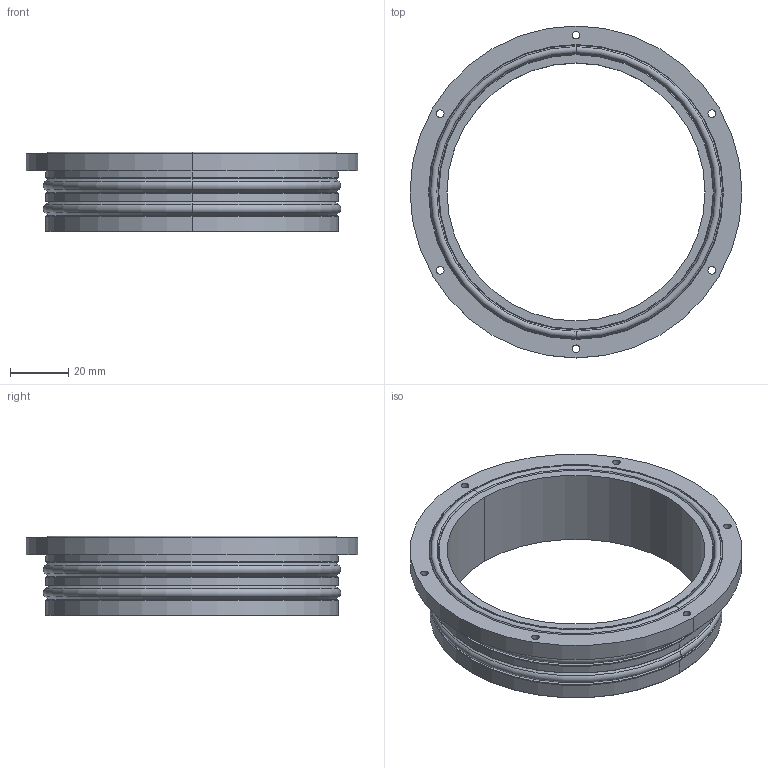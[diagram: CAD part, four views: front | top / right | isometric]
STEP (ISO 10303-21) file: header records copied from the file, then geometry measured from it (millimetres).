
FILE_DESCRIPTION (( 'STEP AP203' ), '1' );
FILE_NAME ('WTC-M-FLANGE-SEAL-4-R2.STEP', '2015-07-13T02:26:52', ( 'rjehangir' ), ( '' ), 'SwSTEP 2.0', 'SolidWorks 2012', '' );
FILE_SCHEMA (( 'CONFIG_CONTROL_DESIGN' ));
Length unit declared in the file: millimetre
Products named in the file (1): WTC-M-FLANGE-SEAL-4-R2
Bounding box: 114.3 x 114.3 x 27.52 mm (x, y, z)
Volume: 61899.3 mm3; surface area: 28305.8 mm2
Topology: 1 solids, 1 shells, 78 faces, 168 edges, 102 vertices
Faces by surface type: cylinder 34, cone 26, plane 12, torus 6
Entity records: 2245 total; most frequent: DIRECTION 434, CARTESIAN_POINT 349, ORIENTED_EDGE 336, AXIS2_PLACEMENT_3D 187, EDGE_CURVE 168, CIRCLE 108, VERTEX_POINT 102, EDGE_LOOP 102
